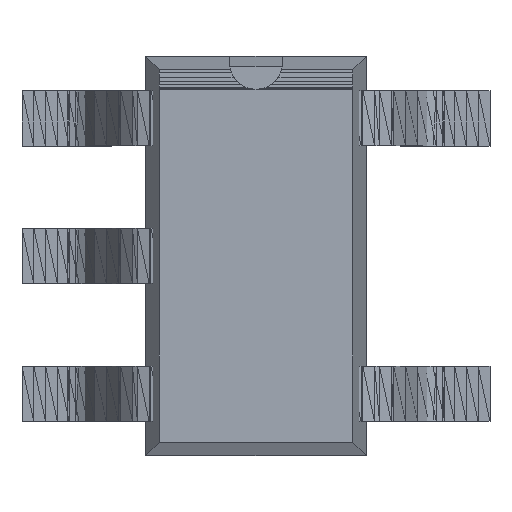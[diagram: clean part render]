
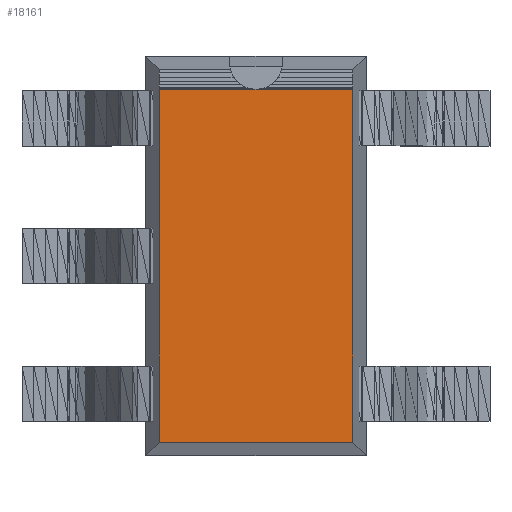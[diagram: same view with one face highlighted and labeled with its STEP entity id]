
A CAD part, top view. The second image highlights one B-rep face of the part: STEP entity #18161.
In plain terms, the highlighted planar face has unit normal (0, 0, 1).
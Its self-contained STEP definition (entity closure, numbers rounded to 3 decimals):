
#17236 = CARTESIAN_POINT('',(-0.704,-1.354,1.355));
#17237 = VERTEX_POINT('',#17236);
#17238 = CARTESIAN_POINT('',(-0.704,1.21,1.355));
#17239 = VERTEX_POINT('',#17238);
#17263 = DIRECTION('',(0.,1.,0.));
#17264 = VECTOR('',#17263,1.);
#17265 = LINE('',#17236,#17264);
#17266 = EDGE_CURVE('',#17237,#17239,#17265,.T.);
#17325 = CARTESIAN_POINT('',(0.704,1.21,1.355));
#17326 = VERTEX_POINT('',#17325);
#17327 = CARTESIAN_POINT('',(0.704,-1.354,1.355));
#17328 = VERTEX_POINT('',#17327);
#17370 = DIRECTION('',(0.,1.,0.));
#17371 = VECTOR('',#17370,1.);
#17372 = LINE('',#17327,#17371);
#17373 = EDGE_CURVE('',#17328,#17326,#17372,.T.);
#17389 = DIRECTION('',(1.,0.,0.));
#17390 = VECTOR('',#17389,1.);
#17391 = LINE('',#17236,#17390);
#17392 = EDGE_CURVE('',#17237,#17328,#17391,.T.);
#17647 = CARTESIAN_POINT('',(0.,1.21,1.355));
#17648 = VERTEX_POINT('',#17647);
#18118 = DIRECTION('',(1.,0.,0.));
#18119 = VECTOR('',#18118,1.);
#18120 = LINE('',#17647,#18119);
#18121 = EDGE_CURVE('',#17648,#17326,#18120,.T.);
#18134 = DIRECTION('',(1.,0.,0.));
#18135 = VECTOR('',#18134,1.);
#18136 = LINE('',#17238,#18135);
#18137 = EDGE_CURVE('',#17239,#17648,#18136,.T.);
#18149 = ORIENTED_EDGE('',*,*,#17266,.F.);
#18150 = ORIENTED_EDGE('',*,*,#17392,.T.);
#18151 = ORIENTED_EDGE('',*,*,#17373,.T.);
#18152 = ORIENTED_EDGE('',*,*,#18121,.F.);
#18153 = ORIENTED_EDGE('',*,*,#18137,.F.);
#18154 = CARTESIAN_POINT('',(-0.704,1.21,1.355));
#18155 = DIRECTION('',(0.,0.,1.));
#18156 = DIRECTION('',(0.,-1.,0.));
#18157 = AXIS2_PLACEMENT_3D('',#18154,#18155,#18156);
#18158 = PLANE('',#18157);
#18159 = EDGE_LOOP('',(#18149,#18150,#18151,#18152,#18153));
#18160 = FACE_OUTER_BOUND('',#18159,.T.);
#18161 = ADVANCED_FACE('',(#18160),#18158,.T.);
